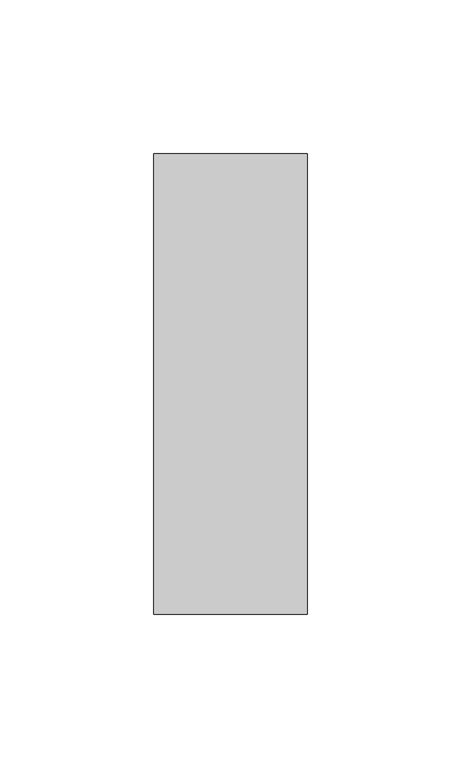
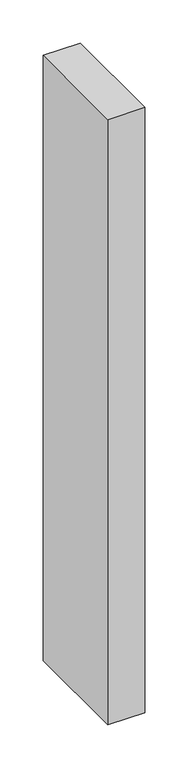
"""IFC4 building model written with IfcOpenShell, lengths in millimetres: member geometry, Прямоугольный импост : 50 x 150 мм."""

from ifc_helpers import new_model, si_unit, frame, origin, place, context, project, spatial, polyline, outline, extrude, source, transform, mapped, element, save


def member_2e90d147(model_context):
    return source(origin(), model_context, "Body", "SweptSolid", [
        extrude(outline(polyline([(25.0, 75.0), (25.0, -75.0), (-25.0, -75.0), (-25.0, 75.0), (25.0, 75.0)])), frame((0.0, 0.0, -858.351063), z_axis=(0.0, 0.0, 1.0), x_axis=(1.0, 0.0, 0.0)), (0.0, 0.0, 1.0), 858.351063),
    ])


if __name__ == "__main__":
    model = new_model("IFC4")
    model_context = context("Model", 3, world=origin())
    ifc_project = project(units=[si_unit("LENGTHUNIT", "METRE", prefix="MILLI")], contexts=[model_context])
    site = spatial("IfcSite", under=ifc_project)
    building = spatial("IfcBuilding", under=site)
    placement = place(None, origin())
    member_shape = member_2e90d147(model_context)
    element("IfcMember", 1, ObjectType="Прямоугольный импост : 50 x 150 мм", at=placement, inside=building, context=model_context, shape_type="MappedRepresentation", body=[
        mapped(member_shape, transform((0.0, 0.0, 0.0), x_axis=(1.0, 0.0, 0.0), y_axis=(0.0, 1.0, 0.0), z_axis=(0.0, 0.0, 1.0))),
    ])
    save(model, "model.ifc")
